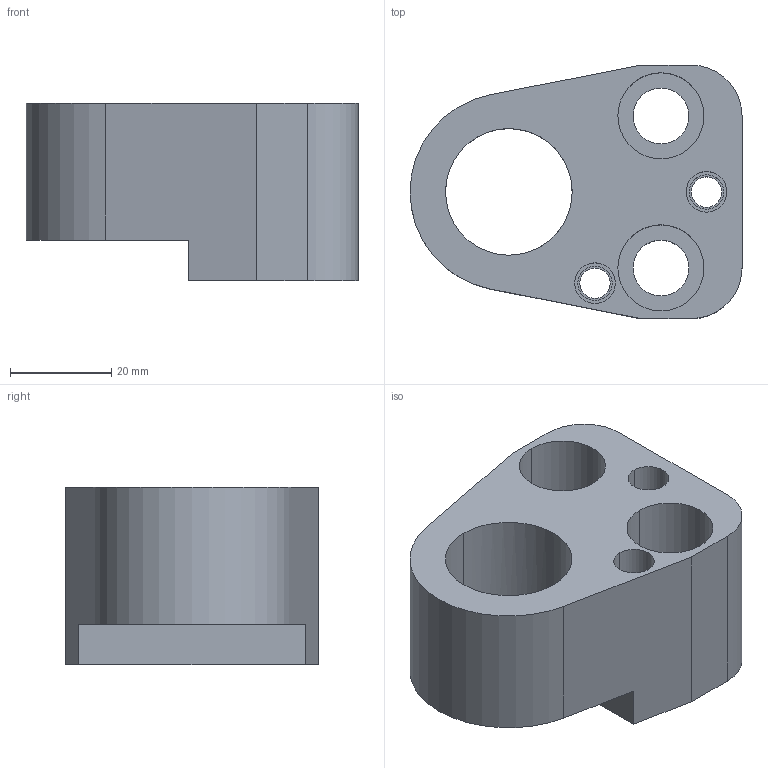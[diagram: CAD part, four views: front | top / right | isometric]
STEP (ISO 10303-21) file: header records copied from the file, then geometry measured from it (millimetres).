
FILE_DESCRIPTION(/* description */ (''),/* implementation_level */ '2;1');
FILE_NAME(/* name */ '3d_hap-fn25_04008_r00.stp',/* time_stamp */ '2011-01-10T14:14:58+09:00',/* author */ ('MISUMI'),/* organization */ (''),/* preprocessor_version */ 'ST-DEVELOPER v11',/* originating_system */ 'UGS - NX 5.0',/* authorisation */ '');
FILE_SCHEMA (('CONFIG_CONTROL_DESIGN'));
Length unit declared in the file: millimetre
Products named in the file (1): 3d_hap-fn25_04008_r00
Bounding box: 65.5 x 50 x 35 mm (x, y, z)
Volume: 58321.9 mm3; surface area: 17276.9 mm2
Topology: 1 solids, 1 shells, 42 faces, 104 edges, 69 vertices
Faces by surface type: cylinder 25, plane 15, cone 2
Entity records: 1382 total; most frequent: DIRECTION 242, CARTESIAN_POINT 221, ORIENTED_EDGE 208, EDGE_CURVE 104, AXIS2_PLACEMENT_3D 96, VERTEX_POINT 69, EDGE_LOOP 57, CIRCLE 53
